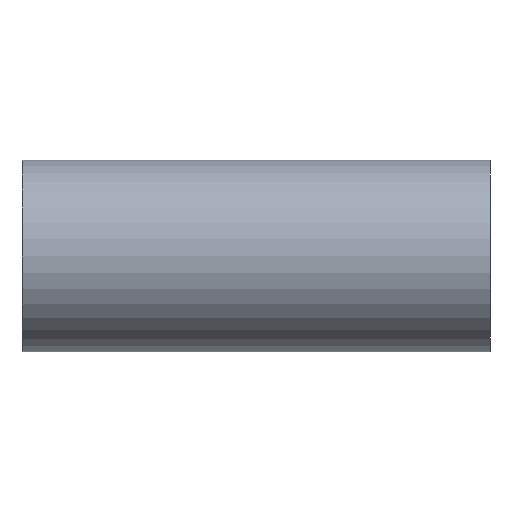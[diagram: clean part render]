
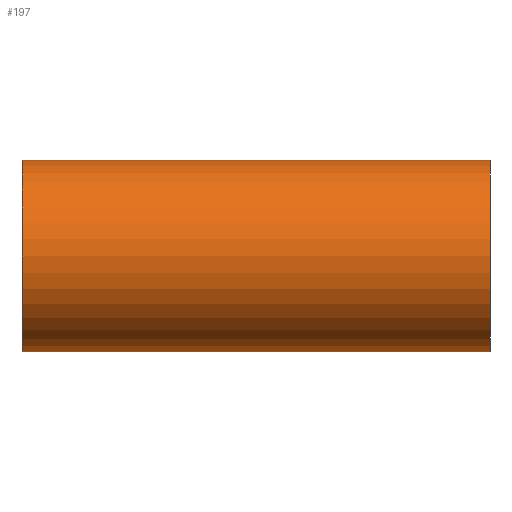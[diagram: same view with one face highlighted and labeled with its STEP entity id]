
A CAD part, front view. The second image highlights one B-rep face of the part: STEP entity #197.
In plain terms, the highlighted cylindrical face has radius 5.66 mm (diameter 11.32 mm), a full revolution.
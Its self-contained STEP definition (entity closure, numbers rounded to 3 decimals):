
#96=CARTESIAN_POINT('',(0.,0.0,0.0));
#97=DIRECTION('',(1.0,0.0,0.0));
#98=DIRECTION('',(0.0,1.0,0.0));
#99=AXIS2_PLACEMENT_3D('',#96,#97,#98);
#100=CYLINDRICAL_SURFACE('',#99,5.66);
#101=CARTESIAN_POINT('',(-13.8,5.66,0.0));
#102=VERTEX_POINT('',#101);
#103=CARTESIAN_POINT('',(-13.8,0.0,0.0));
#104=DIRECTION('',(1.0,0.0,0.0));
#105=DIRECTION('',(0.0,1.0,0.0));
#106=AXIS2_PLACEMENT_3D('',#103,#104,#105);
#107=CIRCLE('',#106,5.66);
#108=EDGE_CURVE('',#102,#102,#107,.T.);
#109=ORIENTED_EDGE('',*,*,#108,.T.);
#110=EDGE_LOOP('',(#109));
#111=FACE_OUTER_BOUND('',#110,.T.);
#112=CARTESIAN_POINT('',(-4.643,3.431,-4.502));
#113=VERTEX_POINT('',#112);
#114=CARTESIAN_POINT('',(-7.66,5.66,0.0));
#115=VERTEX_POINT('',#114);
#116=CARTESIAN_POINT('',(0.0,0.0,0.0));
#117=DIRECTION('',(0.594,0.804,0.0));
#118=DIRECTION('',(-0.804,0.594,0.0));
#119=AXIS2_PLACEMENT_3D('',#116,#117,#118);
#120=ELLIPSE('',#119,9.524,5.66);
#121=EDGE_CURVE('',#113,#115,#120,.T.);
#122=ORIENTED_EDGE('',*,*,#121,.F.);
#123=CARTESIAN_POINT('',(0.0,0.0,-5.66));
#124=VERTEX_POINT('',#123);
#125=CARTESIAN_POINT('',(0.0,0.0,0.0));
#126=DIRECTION('',(0.594,0.804,0.0));
#127=DIRECTION('',(-0.804,0.594,0.0));
#128=AXIS2_PLACEMENT_3D('',#125,#126,#127);
#129=ELLIPSE('',#128,9.524,5.66);
#130=EDGE_CURVE('',#124,#113,#129,.T.);
#131=ORIENTED_EDGE('',*,*,#130,.F.);
#132=CARTESIAN_POINT('',(4.643,3.431,-4.502));
#133=VERTEX_POINT('',#132);
#134=CARTESIAN_POINT('',(0.0,0.0,0.0));
#135=DIRECTION('',(-0.594,0.804,0.0));
#136=DIRECTION('',(0.804,0.594,0.0));
#137=AXIS2_PLACEMENT_3D('',#134,#135,#136);
#138=ELLIPSE('',#137,9.524,5.66);
#139=EDGE_CURVE('',#133,#124,#138,.T.);
#140=ORIENTED_EDGE('',*,*,#139,.F.);
#141=CARTESIAN_POINT('',(7.66,5.66,0.0));
#142=VERTEX_POINT('',#141);
#143=CARTESIAN_POINT('',(0.0,0.0,0.0));
#144=DIRECTION('',(-0.594,0.804,0.0));
#145=DIRECTION('',(0.804,0.594,0.0));
#146=AXIS2_PLACEMENT_3D('',#143,#144,#145);
#147=ELLIPSE('',#146,9.524,5.66);
#148=EDGE_CURVE('',#142,#133,#147,.T.);
#149=ORIENTED_EDGE('',*,*,#148,.F.);
#150=CARTESIAN_POINT('',(4.643,3.431,4.502));
#151=VERTEX_POINT('',#150);
#152=CARTESIAN_POINT('',(0.0,0.0,0.0));
#153=DIRECTION('',(-0.594,0.804,0.0));
#154=DIRECTION('',(0.804,0.594,0.0));
#155=AXIS2_PLACEMENT_3D('',#152,#153,#154);
#156=ELLIPSE('',#155,9.524,5.66);
#157=EDGE_CURVE('',#151,#142,#156,.T.);
#158=ORIENTED_EDGE('',*,*,#157,.F.);
#159=CARTESIAN_POINT('',(0.0,0.0,5.66));
#160=VERTEX_POINT('',#159);
#161=CARTESIAN_POINT('',(0.0,0.0,0.0));
#162=DIRECTION('',(-0.594,0.804,0.0));
#163=DIRECTION('',(0.804,0.594,0.0));
#164=AXIS2_PLACEMENT_3D('',#161,#162,#163);
#165=ELLIPSE('',#164,9.524,5.66);
#166=EDGE_CURVE('',#160,#151,#165,.T.);
#167=ORIENTED_EDGE('',*,*,#166,.F.);
#168=CARTESIAN_POINT('',(-4.643,3.431,4.502));
#169=VERTEX_POINT('',#168);
#170=CARTESIAN_POINT('',(0.0,0.0,0.0));
#171=DIRECTION('',(0.594,0.804,0.0));
#172=DIRECTION('',(-0.804,0.594,0.0));
#173=AXIS2_PLACEMENT_3D('',#170,#171,#172);
#174=ELLIPSE('',#173,9.524,5.66);
#175=EDGE_CURVE('',#169,#160,#174,.T.);
#176=ORIENTED_EDGE('',*,*,#175,.F.);
#177=CARTESIAN_POINT('',(0.0,0.0,0.0));
#178=DIRECTION('',(0.594,0.804,0.0));
#179=DIRECTION('',(-0.804,0.594,0.0));
#180=AXIS2_PLACEMENT_3D('',#177,#178,#179);
#181=ELLIPSE('',#180,9.524,5.66);
#182=EDGE_CURVE('',#115,#169,#181,.T.);
#183=ORIENTED_EDGE('',*,*,#182,.F.);
#184=EDGE_LOOP('',(#122,#131,#140,#149,#158,#167,#176,#183));
#185=FACE_BOUND('',#184,.T.);
#186=CARTESIAN_POINT('',(13.8,-5.66,0.));
#187=VERTEX_POINT('',#186);
#188=CARTESIAN_POINT('',(13.8,0.0,0.0));
#189=DIRECTION('',(1.0,0.0,0.0));
#190=DIRECTION('',(0.0,1.0,0.0));
#191=AXIS2_PLACEMENT_3D('',#188,#189,#190);
#192=CIRCLE('',#191,5.66);
#193=EDGE_CURVE('',#187,#187,#192,.T.);
#194=ORIENTED_EDGE('',*,*,#193,.F.);
#195=EDGE_LOOP('',(#194));
#196=FACE_BOUND('',#195,.T.);
#197=ADVANCED_FACE('',(#111,#185,#196),#100,.T.);
